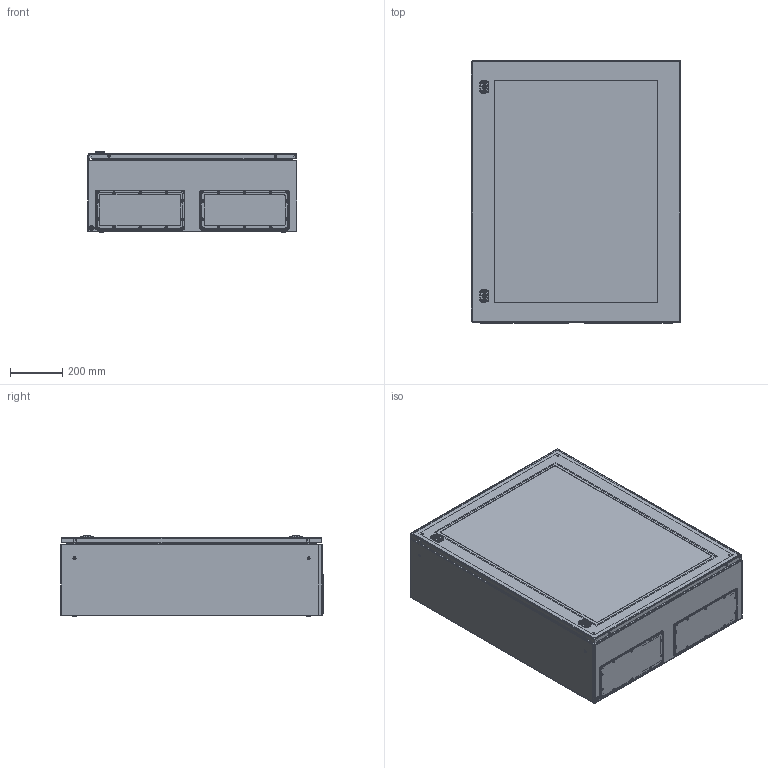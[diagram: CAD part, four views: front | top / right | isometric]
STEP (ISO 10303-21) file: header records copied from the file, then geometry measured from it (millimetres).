
FILE_DESCRIPTION (( 'STEP AP203' ), '1' );
FILE_NAME ('R5STX1083.STEP', '2022-04-28T09:17:45', ( '' ), ( '' ), 'SwSTEP 2.0', 'SolidWorks 2020', '' );
FILE_SCHEMA (( 'CONFIG_CONTROL_DESIGN' ));
Length unit declared in the file: millimetre
Products named in the file (41): TPA.08.0001.00.00.0; RB.0048.01.02.0_-14; A7100032-R; AC00C348-R; RB.2171.00.00.0 捘; AC00C317-R; RB.2238.00.00.0; M6x16 DIN 7985 PZ cl.4,8 Zinc_straight; PT Ì6õ16 Cu ISO13918_straight; RB.2237.00.00.0; RB.0048.09.00.0 捘_-06; AC00C343-R; AC00C380-R; M4x6 DIN 7985 PH cl.4,8 Zinc_straight; Glass ST_1000x0800; RB.0048.00.02.1_-13; RB.0048.01.00.1 C縫-38; PF 7,5x15 door ST_1000x0800; AC00C316-R; TPA.08.0060.00.00.0 捘; RB.2171.00.01.0; AC00C356-R_AC00c356(A7100031); RB.2070.00.00.0; RB.0048.01.01.1_-38; TPA.08.0003.00.00.0; Ì6õ12 A5100231_straight; RB.0048.11.00.0 C縫-02; RB.0048.10.00.0 捘_-06; TPA.08.0002.00.00.0; Glue ST_1000x0800; 娗p ST; M4x10 DIN 7500 M PZ cl.4,8 Zinc_straight; RB.0048.11.01.0_-02; Pin 1.2x12 GOST 3128-70; PF 4x8 flange ST_02; AC00C112-R; PT Ì8õ25 cl.4.8 Cu ISO13918_straight; M8 DIN 6923 cl.8,0 Zinc_straight; R5STX1083; RB.0048.09.01.0_-06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
Assembly tree (79 placements, depth 4):
  R5STX1083
    RB.0048.02.00.1 C縫-38
      RB.0048.01.00.1 C縫-38
        RB.0048.01.01.1_-38
        RB.0048.01.02.0_-14
        PT Ì8õ25 cl.4.8 Cu ISO13918_straight  x4
        PT Ì6õ16 Cu ISO13918_straight  x4
      AC00C317-R  x4
      AC00C316-R
      RB.2171.00.00.0 捘  x3
        RB.2171.00.01.0
        Pin 1.2x12 GOST 3128-70
      娗p ST  x3
      M4x6 DIN 7985 PH cl.4,8 Zinc_straight  x3
    RB.0048.11.00.0 C縫-02  x2
      RB.0048.11.01.0_-02
      PF 4x8 flange ST_02
    RB.2238.00.00.0  x3
    M8 DIN 6923 cl.8,0 Zinc_straight  x4
    RB.0048.10.00.0 捘_-06
      RB.0048.09.00.0 捘_-06
        RB.0048.09.01.0_-06
        RB.2237.00.00.0  x3
        Ì6õ12 A5100231_straight  x4
      AC00C112-R  x4
      PF 7,5x15 door ST_1000x0800
      TPA.08.0060.00.00.0 捘  x2
        A7100032-R
        AC00C343-R
        AC00C348-R
        TPA.08.0001.00.00.0
        TPA.08.0002.00.00.0
        TPA.08.0003.00.00.0
        M6x16 DIN 7985 PZ cl.4,8 Zinc_straight
      Glass ST_1000x0800
      Glue ST_1000x0800
      AC00C356-R_AC00c356(A7100031)  x2
    AC00C380-R  x2
    RB.0048.00.02.1_-13
    RB.2070.00.00.0  x4
    M4x10 DIN 7500 M PZ cl.4,8 Zinc_straight  x4
Bounding box: 802.8 x 1003.5 x 308.48 mm (x, y, z)
Volume: 7623062.7 mm3; surface area: 7619266.3 mm2
Topology: 83 solids, 83 shells, 5995 faces, 14836 edges, 9301 vertices
Faces by surface type: plane 3042, cylinder 1524, torus 505, bspline 476, cone 352, sphere 96
Entity records: 134321 total; most frequent: CARTESIAN_POINT 36994, ORIENTED_EDGE 19292, DIRECTION 18373, EDGE_CURVE 9646, LINE 6663, VECTOR 6663, VERTEX_POINT 6158, AXIS2_PLACEMENT_3D 5855
